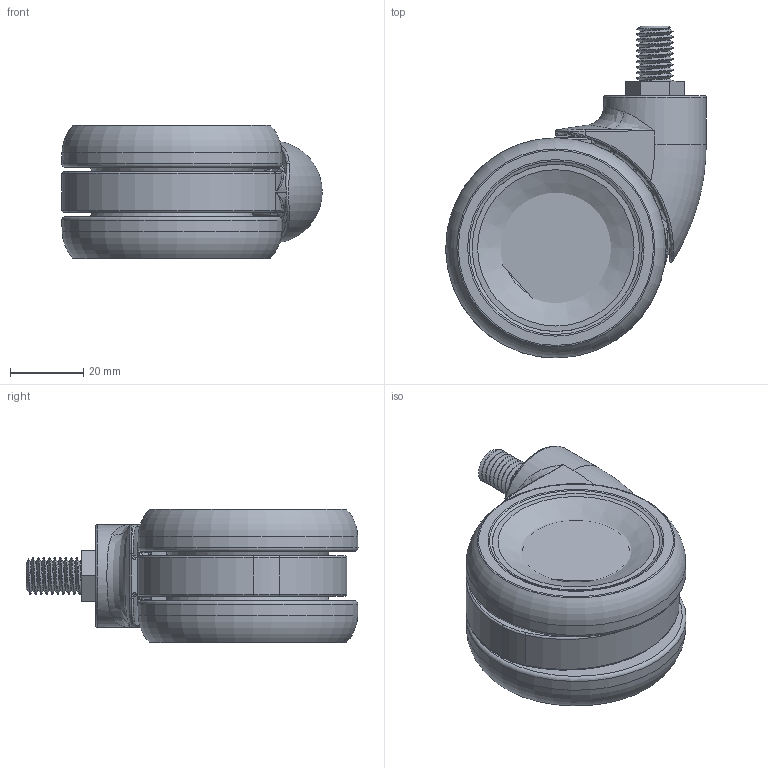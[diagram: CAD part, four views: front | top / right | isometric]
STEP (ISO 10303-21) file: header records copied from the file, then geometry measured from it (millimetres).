
FILE_DESCRIPTION (( 'STEP AP203' ), '1' );
FILE_NAME ('K09U28(M10).STEP', '2025-04-09T09:28:46', ( '' ), ( '' ), 'SwSTEP 2.0', 'SolidWorks 2025', '' );
FILE_SCHEMA (( 'CONFIG_CONTROL_DESIGN' ));
Length unit declared in the file: millimetre
Products named in the file (5): 本体; TPU車輪; 28カバー_2; M8縦軸; K09U28(M10)
Assembly tree (5 placements, depth 2):
  K09U28(M10)
    本体
    M8縦軸
    28カバー_2
    TPU車輪  x2
Bounding box: 71 x 90.5 x 36.4 mm (x, y, z)
Volume: 81607.6 mm3; surface area: 59688.3 mm2
Topology: 9 solids, 10 shells, 706 faces, 1923 edges, 1152 vertices
Faces by surface type: plane 275, cylinder 149, torus 94, bspline 94, cone 58, sphere 36
Full cylindrical faces by diameter (mm): 2.3 x45, 7.7 x1, 9 x2, 9.4 x2, 15.6 x1, 16 x2, 16.2 x1, 17 x1, 28 x1, 34 x2, 34.95 x1, 35 x1, 36 x4, 36.4 x4, 38.35 x3, 44.15 x3, 46 x2, 46.95 x1, 47 x1, 54.897 x4
Entity records: 25338 total; most frequent: CARTESIAN_POINT 11662, ORIENTED_EDGE 2700, DIRECTION 2609, EDGE_CURVE 1350, AXIS2_PLACEMENT_3D 1146, VERTEX_POINT 881, EDGE_LOOP 849, FACE_OUTER_BOUND 692
